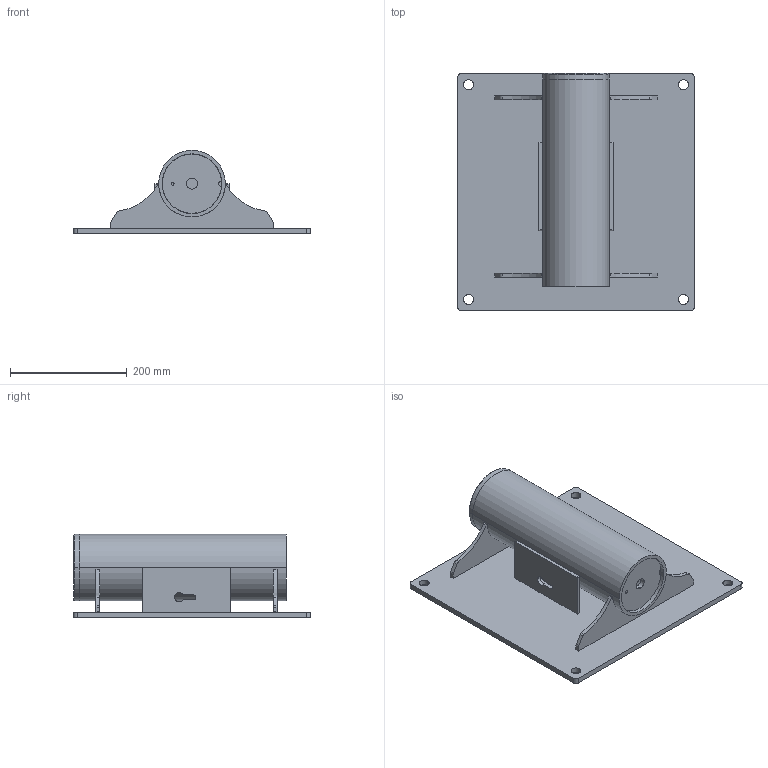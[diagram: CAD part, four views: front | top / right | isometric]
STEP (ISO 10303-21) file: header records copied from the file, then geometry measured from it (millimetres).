
FILE_DESCRIPTION (( 'STEP AP214' ), '1' );
FILE_NAME ('OZWALL1-TPSS.STEP', '2026-05-14T13:48:46', ( '' ), ( '' ), 'SwSTEP 2.0', 'SolidWorks 2023', '' );
FILE_SCHEMA (( 'AUTOMOTIVE_DESIGN' ));
Length unit declared in the file: inch
Products named in the file (11): 365-0000_NO BASE CAP; 364-0281; 390-0392; 360-0290; 364-0180; 364-0080; OZWALL1-TPSS; 362-0281; 360-0380; 364-0282; 364-0280
Assembly tree (12 placements, depth 4):
  OZWALL1-TPSS
    365-0000_NO BASE CAP
      364-0080
        364-0280
        364-0281  x2
        364-0180
        362-0281
        360-0380
        364-0282  x2
      390-0392
      360-0290
Bounding box: 406.4 x 406.4 x 142.88 mm (x, y, z)
Volume: 2846668.2 mm3; surface area: 795724.8 mm2
Topology: 10 solids, 10 shells, 228 faces, 608 edges, 401 vertices
Faces by surface type: plane 112, cylinder 106, cone 10
Entity records: 5551 total; most frequent: DIRECTION 949, CARTESIAN_POINT 894, ORIENTED_EDGE 858, EDGE_CURVE 429, AXIS2_PLACEMENT_3D 338, VERTEX_POINT 283, LINE 273, VECTOR 273
